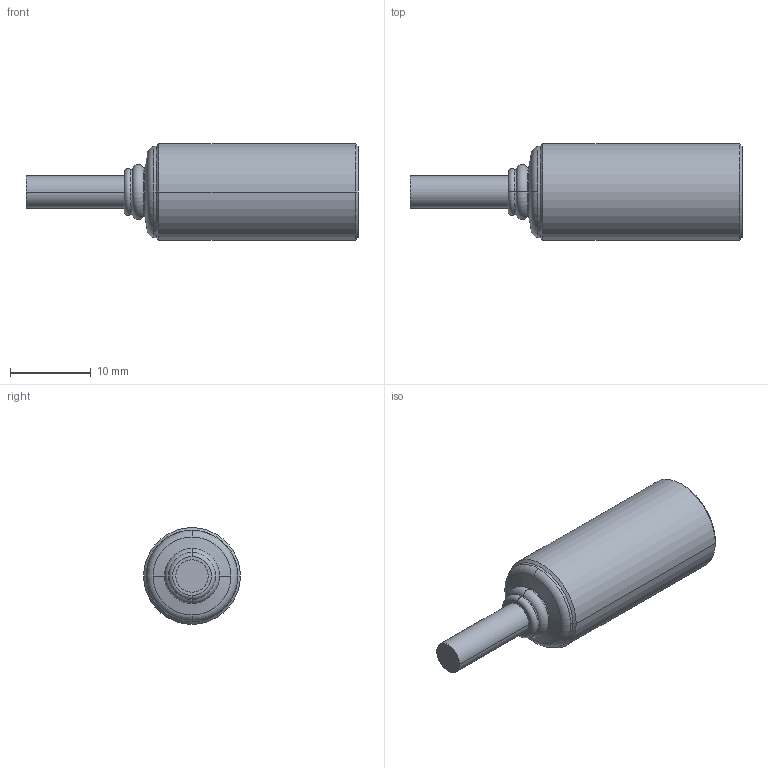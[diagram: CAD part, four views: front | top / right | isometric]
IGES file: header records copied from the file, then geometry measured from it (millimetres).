
Global section: file name: No Iges File Name specified; native system: Autodesk Inventor 2009; preprocessor: AutoDesk Inventor Iges Exporter R2009; author: Oliver Liedtke; date: 20100128.134122; units: millimetre
Bounding box: 41.16 x 12 x 12 mm (x, y, z)
Volume: 3174.8 mm3; surface area: 1385.9 mm2
Topology: 1 solids, 1 shells, 31 faces, 70 edges, 44 vertices
Faces by surface type: cone 8, torus 6, cylinder 6, plane 5, bspline 4, revolution 2
